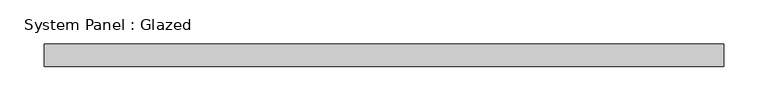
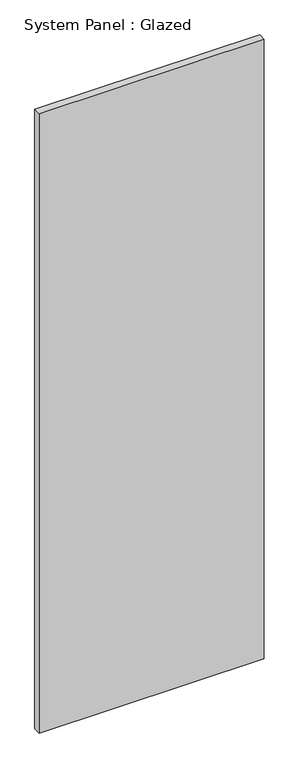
"""IFC4 building model written with IfcOpenShell, lengths in millimetres: plate geometry, System Panel : Glazed."""

from ifc_helpers import new_model, si_unit, origin, origin_with_axes, place, context, project, spatial, polyline, outline, extrude, source, transform, mapped, element, save


def system_panel_glazed_4c64ceed(model_context):
    return source(origin(), model_context, "Body", "SweptSolid", [
        extrude(outline(polyline([(382.5, -12.5), (-382.5, -12.5), (-382.5, 12.5), (382.5, 12.5), (382.5, -12.5)])), origin_with_axes(), (0.0, 0.0, 1.0), 2225.0),
    ])


if __name__ == "__main__":
    model = new_model("IFC4")
    model_context = context("Model", 3, world=origin())
    ifc_project = project(units=[si_unit("LENGTHUNIT", "METRE", prefix="MILLI")], contexts=[model_context])
    site = spatial("IfcSite", under=ifc_project)
    building = spatial("IfcBuilding", under=site)
    placement = place(None, origin())
    system_panel_glazed_shape = system_panel_glazed_4c64ceed(model_context)
    element("IfcPlate", 1, ObjectType="System Panel : Glazed", at=placement, inside=building, context=model_context, shape_type="MappedRepresentation", body=[
        mapped(system_panel_glazed_shape, transform((0.0, 0.0, 0.0), x_axis=(1.0, 0.0, 0.0), y_axis=(0.0, 1.0, 0.0), z_axis=(0.0, 0.0, 1.0))),
    ])
    save(model, "model.ifc")
